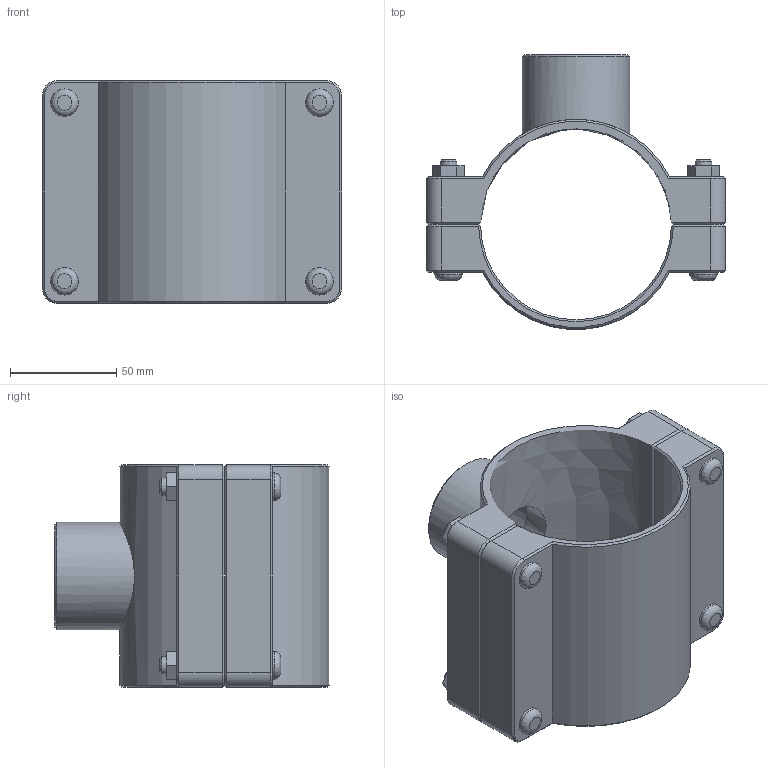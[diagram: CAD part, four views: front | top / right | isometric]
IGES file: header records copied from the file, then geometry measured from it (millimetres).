
Global section: file name: 160760090013_160860090013.ipt; native system: Autodesk Inventor 2015; preprocessor: unknown; author: KIM; date: 20170618.093528; units: millimetre
Bounding box: 141 x 129.32 x 105 mm (x, y, z)
Volume: 383622.4 mm3; surface area: 96825.5 mm2
Topology: 1 solids, 1 shells, 141 faces, 328 edges, 205 vertices
Faces by surface type: plane 82, cone 25, cylinder 23, revolution 11
Full cylindrical faces by diameter (mm): 8 x4, 13 x8, 50.638 x1
